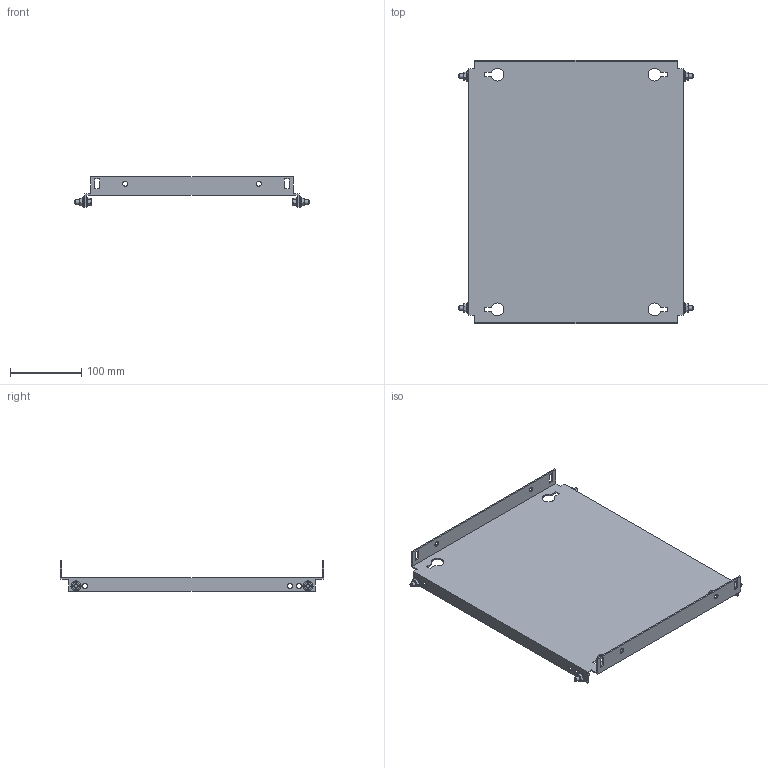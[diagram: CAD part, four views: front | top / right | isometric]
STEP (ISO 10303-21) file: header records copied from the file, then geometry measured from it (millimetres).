
FILE_DESCRIPTION(('Open CASCADE Model'),'2;1');
FILE_NAME('Open CASCADE Shape Model','2025-02-20T13:24:43',('Author'),( 'Open CASCADE'),'Open CASCADE STEP processor 7.8','Open CASCADE 7.8' ,'Unknown');
FILE_SCHEMA(('AUTOMOTIVE_DESIGN { 1 0 10303 214 1 1 1 1 }'));
Length unit declared in the file: millimetre
Products named in the file (4): Compound1; Solid1; Solid2; Solid3
Assembly tree (9 placements, depth 2):
  Compound1
    Solid1
    Solid2  x4
    Solid3  x4
Bounding box: 328 x 369 x 43 mm (x, y, z)
Volume: 273349.8 mm3; surface area: 276939.8 mm2
Topology: 9 solids, 9 shells, 308 faces, 753 edges, 467 vertices
Faces by surface type: plane 150, cone 68, bspline 48, cylinder 30, torus 12
Full cylindrical faces by diameter (mm): 5 x4, 6 x8, 7 x14
Entity records: 4930 total; most frequent: CARTESIAN_POINT 1377, ORIENTED_EDGE 756, DIRECTION 642, EDGE_CURVE 378, VERTEX_POINT 245, LINE 216, VECTOR 216, AXIS2_PLACEMENT_3D 213
